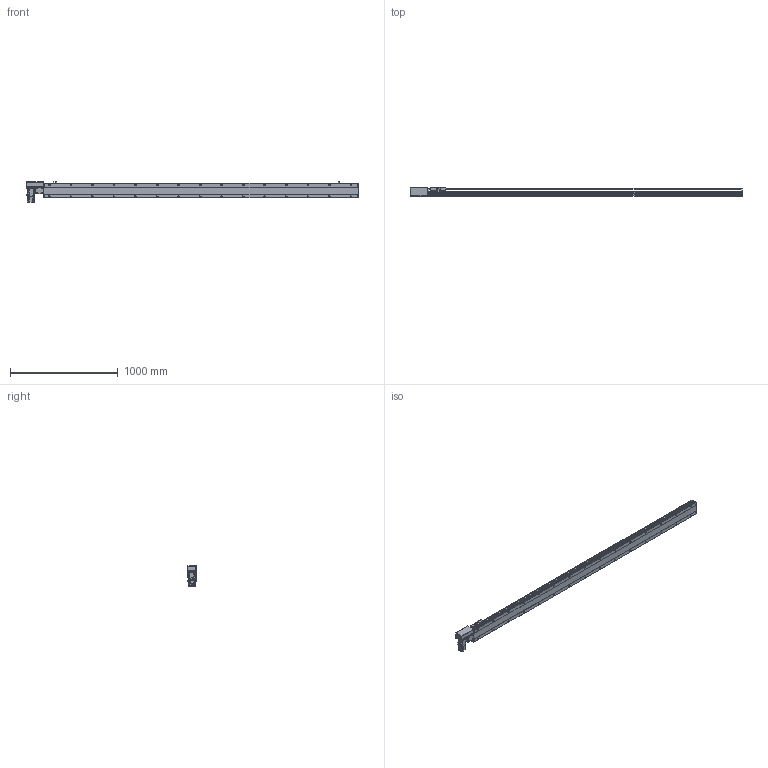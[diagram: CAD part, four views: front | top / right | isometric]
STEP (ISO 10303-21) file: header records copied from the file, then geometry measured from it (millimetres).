
FILE_DESCRIPTION(/* description */ ('STEP AP214'),/* implementation_level */ '2;1');
FILE_NAME(/* name */ 'PBS140-P40-S2650-R-T40-C1-N(0)',/* time_stamp */ '2022-06-06T03:31:35+02:00',/* author */ ('License CC BY-ND 4.0'),/* organization */ ('CADENAS'),/* preprocessor_version */ 'ST-DEVELOPER v18.102',/* originating_system */ 'PARTsolutions',/* authorisation */ ' ');
FILE_SCHEMA (('AUTOMOTIVE_DESIGN {1 0 10303 214 3 1 1}'));
Length unit declared in the file: millimetre
Products named in the file (7): PBS140-P40-S2650-R-T40-C1-N(0); PBS140_sensor; PBS140_plant; PBS140_sliser; T40-p1; PBS140T-R_motors; PBS140-S2650()_body
Assembly tree (8 placements, depth 2):
  PBS140-P40-S2650-R-T40-C1-N(0)
    PBS140_sensor  x3
    PBS140_plant
    PBS140_sliser
    T40-p1
    PBS140T-R_motors
    PBS140-S2650()_body
Bounding box: 3083 x 80.5 x 189.7 mm (x, y, z)
Volume: 13430659.1 mm3; surface area: 2283498.3 mm2
Topology: 8 solids, 8 shells, 1187 faces, 3116 edges, 2035 vertices
Faces by surface type: plane 734, cylinder 387, cone 56, sphere 8, torus 2
Full cylindrical faces by diameter (mm): 3.242 x4, 4 x2, 4.134 x4, 4.4 x8, 4.5 x2, 4.8 x4, 4.917 x38, 5.5 x7, 6 x2, 7 x32, 7.5 x8, 8 x12, 8.5 x4, 10.5 x30, 14 x1, 30 x2, 50 x2
Entity records: 33851 total; most frequent: CARTESIAN_POINT 6449, DIRECTION 5687, ORIENTED_EDGE 5332, EDGE_CURVE 2666, AXIS2_PLACEMENT_3D 2017, VERTEX_POINT 1869, LINE 1653, VECTOR 1653
